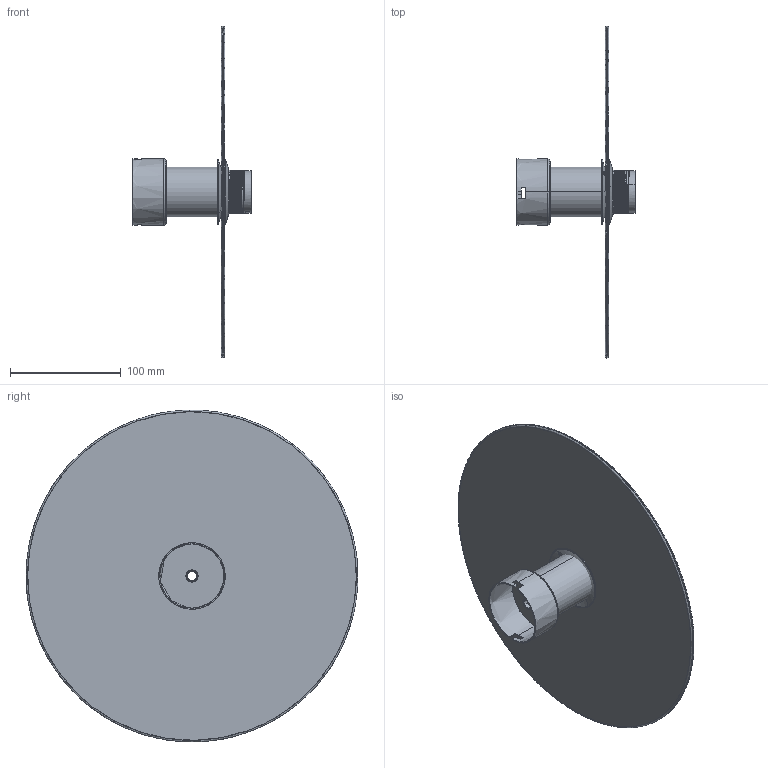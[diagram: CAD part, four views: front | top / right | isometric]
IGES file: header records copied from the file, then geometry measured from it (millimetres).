
Start section: SolidWorks IGES file using analytic representation for surfaces
Global section: file name: C:\Users\Agus\Desktop\AROMAS\Libreria modelos\A1125-30\A1125-30.IGS; native system: SolidWorks 2016; preprocessor: SolidWorks 2016; author: Agus; date: 180523.122132; units: millimetre
Bounding box: 106.74 x 299.99 x 299.99 mm (x, y, z)
Surface area: 197799.6 mm2 (no closed solid volume)
Topology: 0 solids, 0 shells, 258 faces, 6219 edges, 6219 vertices
Faces by surface type: revolution 173, bspline 85
